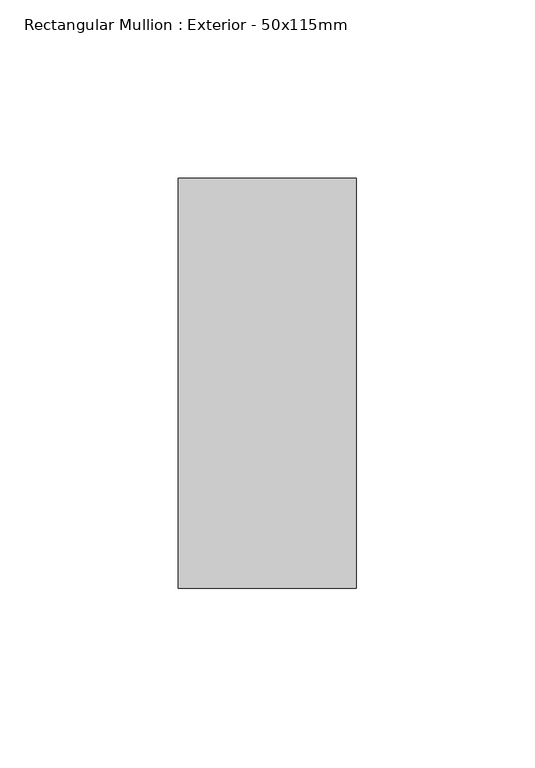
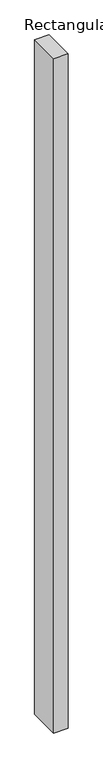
"""IFC4 building model written with IfcOpenShell, lengths in millimetres: member geometry, Rectangular Mullion : Exterior - 50x115mm."""

from ifc_helpers import new_model, si_unit, frame, origin, place, context, project, spatial, polyline, outline, extrude, source, transform, mapped, element, save


def rectangular_mullion_exterior_50x115mm_617798db(model_context):
    return source(origin(), model_context, "Body", "SweptSolid", [
        extrude(outline(polyline([(0.0, 107.5), (0.0, -7.5), (-50.0, -7.5), (-50.0, 107.5), (0.0, 107.5)])), frame((0.0, 0.0, -2482.5), z_axis=(0.0, 0.0, 1.0), x_axis=(1.0, 0.0, 0.0)), (0.0, 0.0, 1.0), 2482.5),
    ])


if __name__ == "__main__":
    model = new_model("IFC4")
    model_context = context("Model", 3, world=origin())
    ifc_project = project(units=[si_unit("LENGTHUNIT", "METRE", prefix="MILLI")], contexts=[model_context])
    site = spatial("IfcSite", under=ifc_project)
    building = spatial("IfcBuilding", under=site)
    placement = place(None, origin())
    rectangular_mullion_exterior_50x115mm_shape = rectangular_mullion_exterior_50x115mm_617798db(model_context)
    element("IfcMember", 1, ObjectType="Rectangular Mullion : Exterior - 50x115mm", at=placement, inside=building, context=model_context, shape_type="MappedRepresentation", body=[
        mapped(rectangular_mullion_exterior_50x115mm_shape, transform((0.0, 0.0, 0.0), x_axis=(1.0, 0.0, 0.0), y_axis=(0.0, 1.0, 0.0), z_axis=(0.0, 0.0, 1.0))),
    ])
    save(model, "model.ifc")
